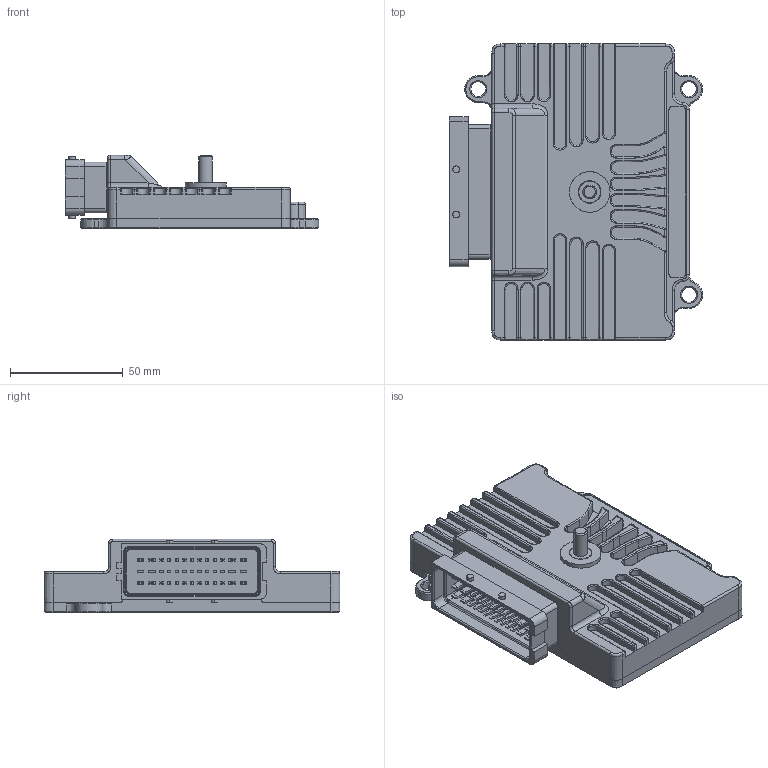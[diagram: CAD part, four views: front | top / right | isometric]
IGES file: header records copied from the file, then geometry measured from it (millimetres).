
Start section: SolidWorks IGES file using analytic representation for surfaces
Global section: file name: C:\Users\asus\Dropbox\CAD\PDM16\PMU16.IGS; native system: SolidWorks 2017; preprocessor: SolidWorks 2017; author: asus; date: 190308.102456; units: millimetre
Bounding box: 112.1 x 131 x 32.5 mm (x, y, z)
Surface area: 112817.2 mm2 (no closed solid volume)
Topology: 0 solids, 0 shells, 2661 faces, 22339 edges, 22315 vertices
Faces by surface type: bspline 1949, revolution 712
